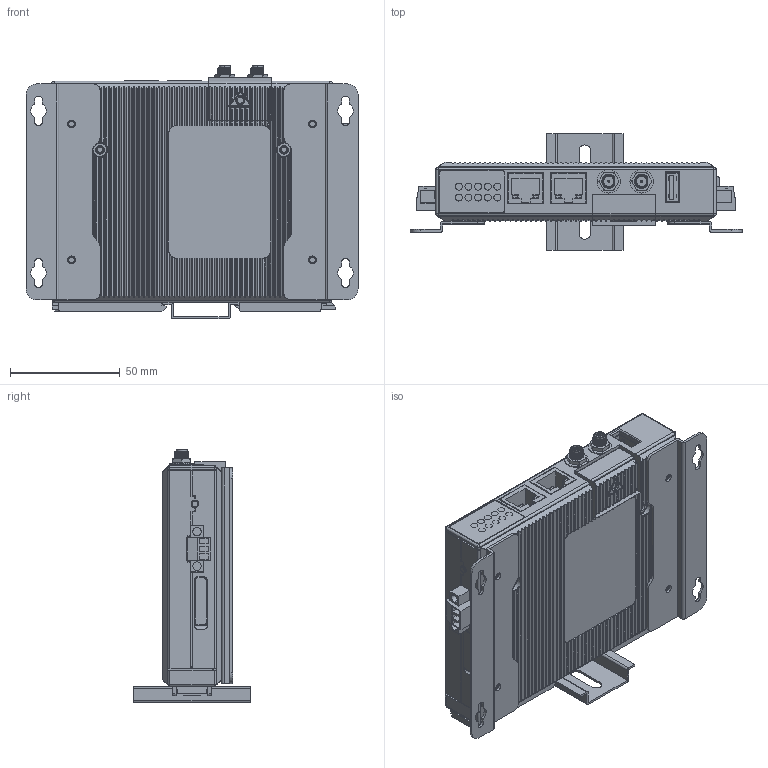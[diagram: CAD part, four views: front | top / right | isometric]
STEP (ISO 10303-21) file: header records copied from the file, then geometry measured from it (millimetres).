
FILE_DESCRIPTION((''),'2;1');
FILE_NAME('UC-8112','2014-06-16T',('Albert_Lin'),(''),'PRO/ENGINEER BY PARAMETRIC TECHNOLOGY CORPORATION, 2013230','PRO/ENGINEER BY PARAMETRIC TECHNOLOGY CORPORATION, 2013230','');
FILE_SCHEMA(('CONFIG_CONTROL_DESIGN'));
Products named in the file (1): UC-8112
Bounding box: 151.6 x 53 x 115.9 mm (x, y, z)
Volume: 105086.5 mm3; surface area: 126704.6 mm2
Topology: 16 solids, 34 shells, 5269 faces, 14188 edges, 9029 vertices
Faces by surface type: plane 2585, cylinder 1797, bspline 523, torus 158, cone 138, sphere 60, extrusion 8
Entity records: 234916 total; most frequent: CARTESIAN_POINT 78139, ORIENTED_EDGE 28138, DIRECTION 24510, EDGE_CURVE 14130, VERTEX_POINT 9029, VECTOR 8536, LINE 8528, AXIS2_PLACEMENT_3D 7987
